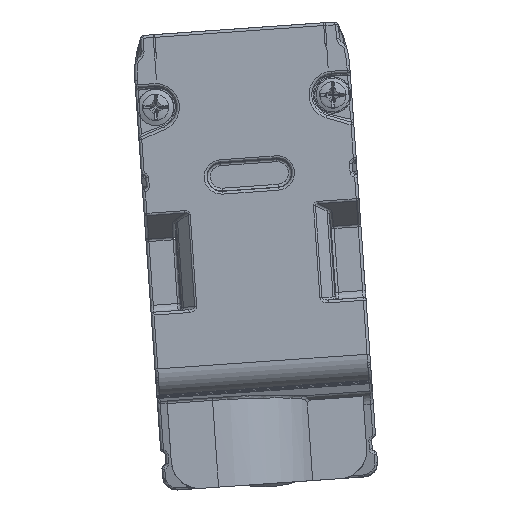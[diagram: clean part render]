
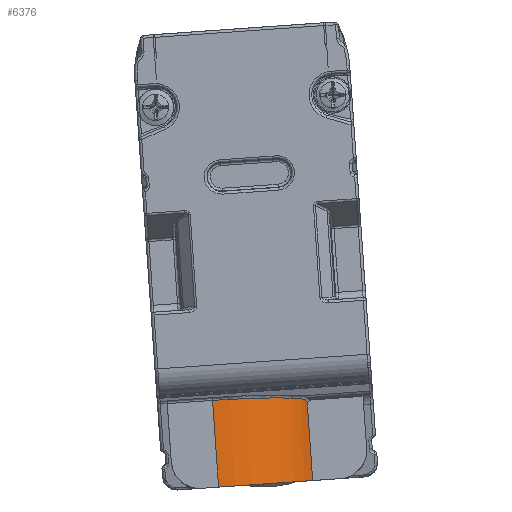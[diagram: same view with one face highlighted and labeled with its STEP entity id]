
A CAD part, front view. The second image highlights one B-rep face of the part: STEP entity #6376.
In plain terms, the highlighted cylindrical face has radius 7.5 mm (diameter 15 mm), a partial arc.
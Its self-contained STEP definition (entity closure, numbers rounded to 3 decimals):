
#202=ELLIPSE('',#22567,7.53,7.5);
#555=CYLINDRICAL_SURFACE('',#22569,7.5);
#1147=CIRCLE('',#22568,7.5);
#2666=LINE('',#32384,#4333);
#2667=LINE('',#32397,#4334);
#4333=VECTOR('',#25275,1.);
#4334=VECTOR('',#25278,1.);
#6376=ADVANCED_FACE('',(#7779),#555,.T.);
#7779=FACE_OUTER_BOUND('',#8819,.T.);
#8819=EDGE_LOOP('',(#10135,#10136,#10137,#10138,#10139));
#10135=ORIENTED_EDGE('',*,*,#18489,.T.);
#10136=ORIENTED_EDGE('',*,*,#18490,.T.);
#10137=ORIENTED_EDGE('',*,*,#18491,.T.);
#10138=ORIENTED_EDGE('',*,*,#18492,.T.);
#10139=ORIENTED_EDGE('',*,*,#18493,.F.);
#15912=VERTEX_POINT('',#32385);
#15913=VERTEX_POINT('',#32386);
#15914=VERTEX_POINT('',#32394);
#15915=VERTEX_POINT('',#32396);
#15916=VERTEX_POINT('',#32398);
#18489=EDGE_CURVE('',#15912,#15913,#2666,.T.);
#18490=EDGE_CURVE('',#15913,#15914,#22006,.T.);
#18491=EDGE_CURVE('',#15914,#15915,#202,.T.);
#18492=EDGE_CURVE('',#15915,#15916,#2667,.T.);
#18493=EDGE_CURVE('',#15912,#15916,#1147,.T.);
#22006=B_SPLINE_CURVE_WITH_KNOTS('',3,(#32387,#32388,#32389,#32390,#32391,
#32392,#32393),.UNSPECIFIED.,.F.,.F.,(4,3,4),(0.,0.485,1.),.UNSPECIFIED.);
#22567=AXIS2_PLACEMENT_3D('',#32395,#25276,#25277);
#22568=AXIS2_PLACEMENT_3D('',#32399,#25279,#25280);
#22569=AXIS2_PLACEMENT_3D('',#32400,#25281,#25282);
#25275=DIRECTION('',(-0.07,0.,0.998));
#25276=DIRECTION('',(0.069,-0.089,-0.994));
#25277=DIRECTION('',(0.006,0.996,-0.089));
#25278=DIRECTION('',(0.07,0.,-0.998));
#25279=DIRECTION('',(0.07,0.,-0.998));
#25280=DIRECTION('',(0.998,0.,0.07));
#25281=DIRECTION('',(0.07,0.,-0.998));
#25282=DIRECTION('',(0.,-1.,0.));
#32384=CARTESIAN_POINT('',(-40.701,-500.597,14.888));
#32385=CARTESIAN_POINT('',(-40.701,-500.597,14.888));
#32386=CARTESIAN_POINT('',(-41.088,-500.597,20.435));
#32387=CARTESIAN_POINT('',(-41.088,-500.597,20.435));
#32388=CARTESIAN_POINT('',(-41.139,-500.686,20.528));
#32389=CARTESIAN_POINT('',(-41.198,-500.793,20.603));
#32390=CARTESIAN_POINT('',(-41.263,-500.905,20.654));
#32391=CARTESIAN_POINT('',(-41.332,-501.024,20.708));
#32392=CARTESIAN_POINT('',(-41.408,-501.152,20.738));
#32393=CARTESIAN_POINT('',(-41.487,-501.278,20.743));
#32394=CARTESIAN_POINT('',(-41.487,-501.278,20.743));
#32395=CARTESIAN_POINT('',(-47.816,-497.318,19.944));
#32396=CARTESIAN_POINT('',(-47.863,-504.818,20.616));
#32397=CARTESIAN_POINT('',(-47.667,-504.818,17.815));
#32398=CARTESIAN_POINT('',(-47.43,-504.818,14.418));
#32399=CARTESIAN_POINT('',(-47.43,-497.318,14.418));
#32400=CARTESIAN_POINT('',(-52.434,-497.318,85.982));
